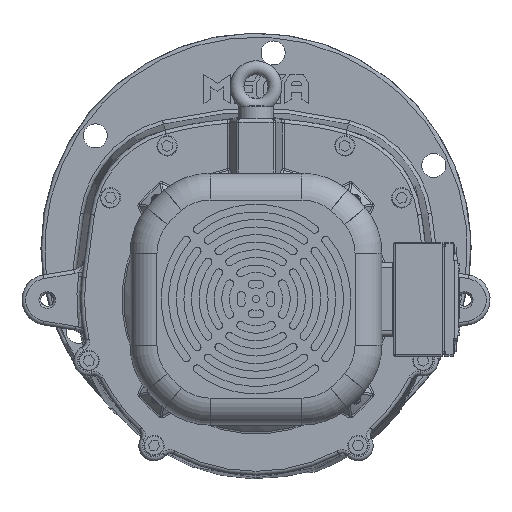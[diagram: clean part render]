
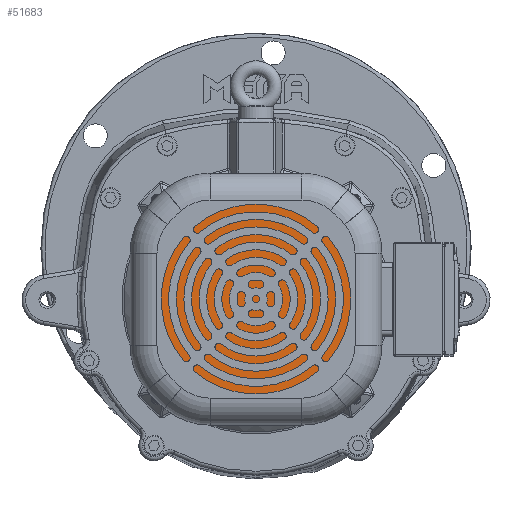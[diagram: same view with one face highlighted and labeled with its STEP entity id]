
A CAD part, top view. The second image highlights one B-rep face of the part: STEP entity #51683.
In plain terms, the highlighted planar face has unit normal (0, 0, 1).
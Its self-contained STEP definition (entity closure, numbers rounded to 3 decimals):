
#1968=PLANE('',#55705);
#3411=FACE_OUTER_BOUND('',#6617,.T.);
#6617=EDGE_LOOP('',(#36360));
#9881=CIRCLE('',#55703,87.5);
#21100=VERTEX_POINT('',#80168);
#26550=EDGE_CURVE('',#21100,#21100,#9881,.T.);
#36360=ORIENTED_EDGE('',*,*,#26550,.F.);
#51683=ADVANCED_FACE('',(#3411),#1968,.F.);
#55703=AXIS2_PLACEMENT_3D('',#80169,#64368,#64369);
#55705=AXIS2_PLACEMENT_3D('',#80173,#64373,#64374);
#64368=DIRECTION('center_axis',(0.,0.,
-1.));
#64369=DIRECTION('ref_axis',(-0.707,0.707,0.));
#64373=DIRECTION('center_axis',(0.,0.,
-1.));
#64374=DIRECTION('ref_axis',(-0.707,0.707,0.));
#80168=CARTESIAN_POINT('',(62.1,-88.6,304.45));
#80169=CARTESIAN_POINT('Origin',(0.228,-26.728,304.45));
#80173=CARTESIAN_POINT('Origin',(0.228,-26.728,304.45));
